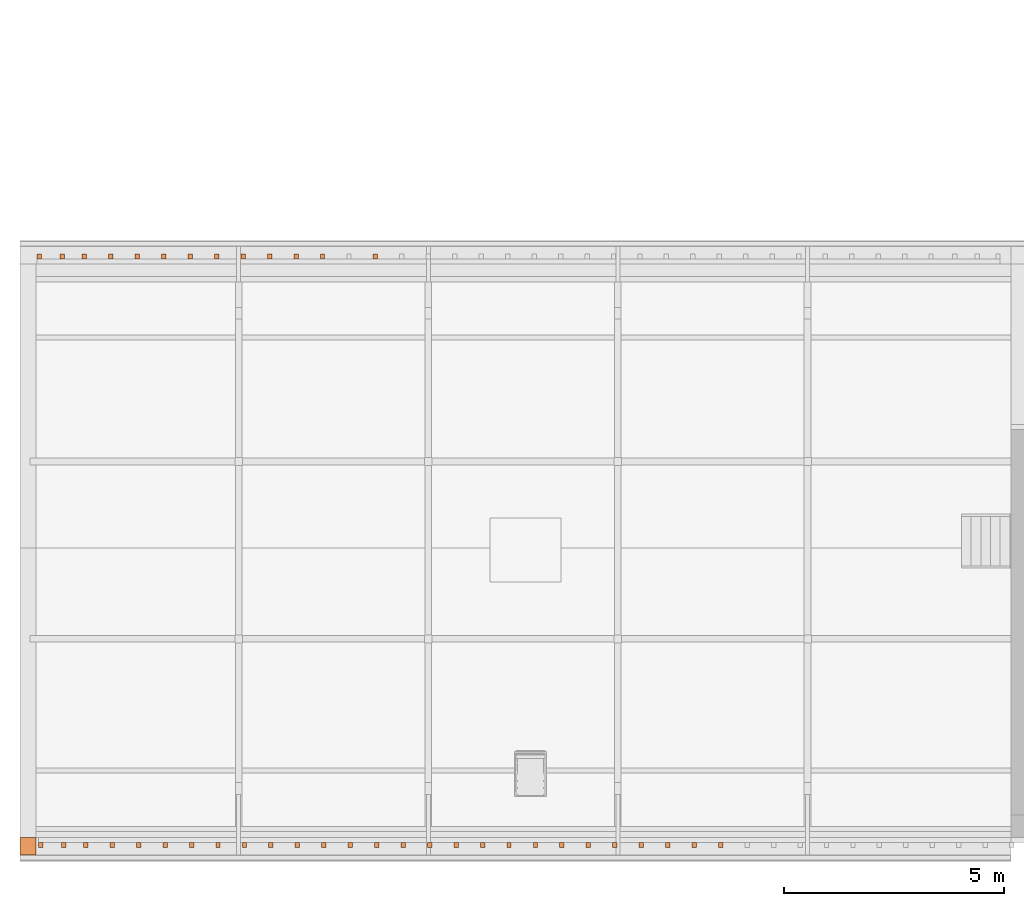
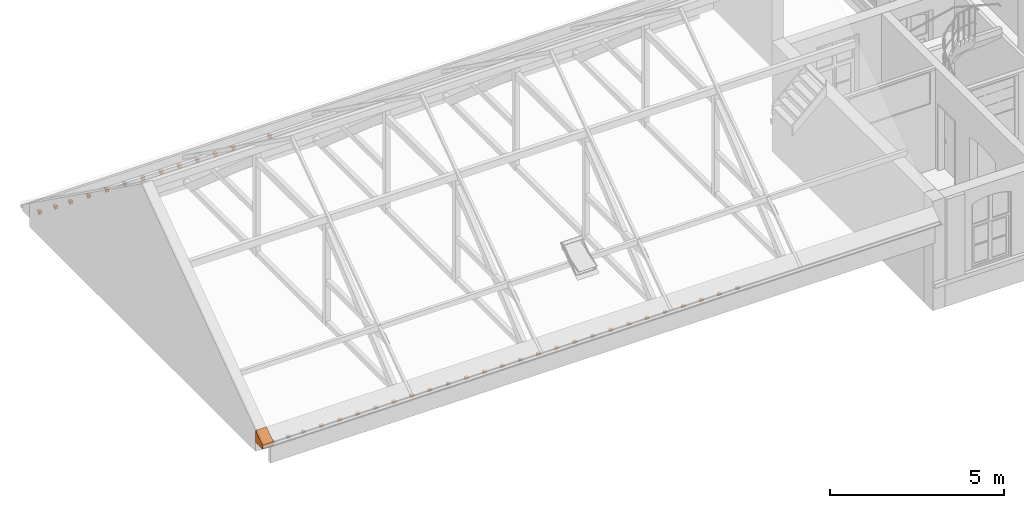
"""IFC4 building model written with IfcOpenShell, lengths in metres."""

from ifc_helpers import new_model, entity, si_unit, converted_unit, derived_unit, frame, origin, place, context, subcontext, project, spatial, faceted_brep, element, save


model = new_model("IFC4")

# Units and contexts
model_context = context("Model", 3, precision=1e-05, world=origin())
body_context = subcontext(model_context, "Body", "Model", "MODEL_VIEW")
ifc_project = project(units=[si_unit("LENGTHUNIT", "METRE"), si_unit("AREAUNIT", "SQUARE_METRE"), si_unit("VOLUMEUNIT", "CUBIC_METRE"), si_unit("MASSUNIT", "GRAM", prefix="KILO"), converted_unit("PLANEANGLEUNIT", "DEGREE", entity("IfcPlaneAngleMeasure", 0.0174532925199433), si_unit("PLANEANGLEUNIT", "RADIAN"), dimensions=[0, 0, 0, 0, 0, 0, 0]), derived_unit("THERMALTRANSMITTANCEUNIT", [(si_unit("POWERUNIT", "WATT"), 1), (si_unit("THERMODYNAMICTEMPERATUREUNIT", "KELVIN"), -1), (si_unit("LENGTHUNIT", "METRE"), -2)]), derived_unit("VOLUMETRICFLOWRATEUNIT", [(si_unit("LENGTHUNIT", "METRE"), 3), (converted_unit("TIMEUNIT", "hour", entity("IfcTimeMeasure", 3600.0), si_unit("TIMEUNIT", "SECOND"), dimensions=[0, 0, 1, 0, 0, 0, 0]), -1), (si_unit("LENGTHUNIT", "METRE"), -1)])], contexts=[model_context])

# Building, storeys
building_placement = place(None, origin())
building = spatial("IfcBuilding", under=ifc_project, at=building_placement, Name="Bestandsgebäude A - Sporthalle / Wohnhaus (TB 100-499)   ANPASSEN !!!", CompositionType="ELEMENT")
storey_1_placement = place(building_placement, frame((0.0, 0.0, 3.87)))
storey_1 = spatial("IfcBuildingStorey", under=building, at=storey_1_placement, Name="Geb. A 1. Obergeschoss (TB 250-299)", CompositionType="ELEMENT", Elevation=3.87)
storey_2_placement = place(storey_1_placement, frame((0.0, 0.0, 3.87)))
storey_2 = spatial("IfcBuildingStorey", under=storey_1, at=storey_2_placement, Name="Architektur (TB 250-259)", CompositionType="PARTIAL")

# Proxies
for number, where in (
    (1, (-15.53, -0.230000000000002, -1.12676065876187)),
    (2, (-16.13, -0.230000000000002, -1.12676065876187)),
    (3, (-16.73, -0.230000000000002, -1.12676065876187)),
    (4, (-17.33, -0.230000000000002, -1.12676065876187)),
    (5, (-17.93, -0.230000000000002, -1.12676065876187)),
    (6, (-18.53, -0.230000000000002, -1.12676065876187)),
    (7, (-19.13, -0.230000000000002, -1.12676065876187)),
    (8, (-19.73, -0.230000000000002, -1.12676065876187)),
    (9, (-20.33, -0.230000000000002, -1.12676065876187)),
    (10, (-20.93, -0.230000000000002, -1.12676065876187)),
    (11, (-21.53, -0.230000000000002, -1.12676065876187)),
    (12, (-22.13, -0.230000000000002, -1.12676065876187)),
    (13, (-22.73, -0.230000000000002, -1.12676065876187)),
    (14, (-23.33, -0.230000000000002, -1.12676065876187)),
    (15, (-23.93, -0.230000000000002, -1.12676065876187)),
    (16, (-24.53, -0.230000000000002, -1.12676065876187)),
    (17, (-25.13, -0.230000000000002, -1.12676065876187)),
    (18, (-25.73, -0.230000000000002, -1.12676065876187)),
):
    element("IfcBuildingElementProxy", number, at=place(storey_2_placement, frame(where)), inside=storey_2, context=body_context, shape_type="Brep", body=[
        faceted_brep([(0.1, 0.11, 0.10676065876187), (0.0, 0.11, 0.10676065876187), (0.0, 0.109999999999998, 0.0), (0.1, 0.109999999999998, 0.0), (0.0, 0.0878057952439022, 0.0), (0.1, 0.0878057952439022, 0.0), (0.0, 0.079673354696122, 0.00115963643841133), (0.1, 0.079673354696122, 0.00115963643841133), (0.0, 0.0675008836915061, 0.00476296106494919), (0.1, 0.0675008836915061, 0.00476296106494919), (0.0, 0.0583377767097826, 0.00852666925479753), (0.1, 0.0583377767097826, 0.00852666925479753), (0.0, 0.0511802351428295, 0.0140969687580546), (0.1, 0.0511802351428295, 0.0140969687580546), (0.0, 0.0408945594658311, 0.0295254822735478), (0.1, 0.0408945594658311, 0.0295254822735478), (0.0, 0.04, 0.0333518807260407), (0.1, 0.04, 0.0333518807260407), (0.0, 0.04, 0.0567606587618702), (0.1, 0.04, 0.0567606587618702), (0.0, 0.0, 0.0567606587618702), (0.1, 0.0, 0.0567606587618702), (0.0, 0.0, 0.10676065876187), (0.1, 0.0, 0.10676065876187)], [[[0, 1, 2, 3]], [[3, 2, 4, 5]], [[5, 4, 6, 7]], [[7, 6, 8, 9]], [[9, 8, 10, 11]], [[11, 10, 12, 13]], [[13, 12, 14, 15]], [[15, 14, 16, 17]], [[17, 16, 18, 19]], [[19, 18, 20, 21]], [[21, 20, 22, 23]], [[23, 22, 1, 0]], [[0, 3, 5, 7, 9, 11, 13, 15, 17, 19, 21, 23]], [[1, 22, 20, 18, 16, 14, 12, 10, 8, 6, 4, 2]]], orient=[[False], [False], [False], [False], [False], [False], [False], [False], [False], [False], [False], [False], [False], [False]]),
    ])
for number, where in (
    (19, (-26.33, -0.230000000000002, -1.12676065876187)),
    (20, (-26.93, -0.230000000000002, -1.12676065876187)),
    (21, (-27.53, -0.230000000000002, -1.12676065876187)),
    (22, (-28.13, -0.230000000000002, -1.12676065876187)),
    (23, (-28.73, -0.230000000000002, -1.12676065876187)),
):
    element("IfcBuildingElementProxy", number, at=place(storey_2_placement, frame(where)), inside=storey_2, context=body_context, shape_type="Brep", body=[
        faceted_brep([(0.1, 0.11, 0.10676065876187), (0.0, 0.11, 0.10676065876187), (0.0, 0.109999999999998, 0.0), (0.1, 0.109999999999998, 0.0), (0.0, 0.0878057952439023, 0.0), (0.1, 0.0878057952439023, 0.0), (0.0, 0.079673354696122, 0.00115963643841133), (0.1, 0.079673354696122, 0.00115963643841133), (0.0, 0.0675008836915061, 0.00476296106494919), (0.1, 0.0675008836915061, 0.00476296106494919), (0.0, 0.0583377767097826, 0.00852666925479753), (0.1, 0.0583377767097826, 0.00852666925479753), (0.0, 0.0511802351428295, 0.0140969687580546), (0.1, 0.0511802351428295, 0.0140969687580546), (0.0, 0.0408945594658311, 0.0295254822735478), (0.1, 0.0408945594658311, 0.0295254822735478), (0.0, 0.04, 0.0333518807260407), (0.1, 0.04, 0.0333518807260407), (0.0, 0.04, 0.0567606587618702), (0.1, 0.04, 0.0567606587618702), (0.0, 0.0, 0.0567606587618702), (0.1, 0.0, 0.0567606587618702), (0.0, 0.0, 0.10676065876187), (0.1, 0.0, 0.10676065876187)], [[[0, 1, 2, 3]], [[3, 2, 4, 5]], [[5, 4, 6, 7]], [[7, 6, 8, 9]], [[9, 8, 10, 11]], [[11, 10, 12, 13]], [[13, 12, 14, 15]], [[15, 14, 16, 17]], [[17, 16, 18, 19]], [[19, 18, 20, 21]], [[21, 20, 22, 23]], [[23, 22, 1, 0]], [[0, 3, 5, 7, 9, 11, 13, 15, 17, 19, 21, 23]], [[1, 22, 20, 18, 16, 14, 12, 10, 8, 6, 4, 2]]], orient=[[False], [False], [False], [False], [False], [False], [False], [False], [False], [False], [False], [False], [False], [False]]),
    ])
for number, where in (
    (24, (-29.33, -0.230000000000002, -1.12676065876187)),
    (25, (-29.93, -0.230000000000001, -1.12676065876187)),
    (26, (-30.95, -0.229999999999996, -1.12676065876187)),
    (27, (-30.43, -0.230000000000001, -1.12676065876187)),
):
    element("IfcBuildingElementProxy", number, at=place(storey_2_placement, frame(where)), inside=storey_2, context=body_context, shape_type="Brep", body=[
        faceted_brep([(0.1, 0.11, 0.10676065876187), (0.0, 0.11, 0.10676065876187), (0.0, 0.109999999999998, 0.0), (0.1, 0.109999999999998, 0.0), (0.0, 0.0878057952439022, 0.0), (0.1, 0.0878057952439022, 0.0), (0.0, 0.079673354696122, 0.00115963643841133), (0.1, 0.079673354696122, 0.00115963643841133), (0.0, 0.0675008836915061, 0.00476296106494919), (0.1, 0.0675008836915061, 0.00476296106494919), (0.0, 0.0583377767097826, 0.00852666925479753), (0.1, 0.0583377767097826, 0.00852666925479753), (0.0, 0.0511802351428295, 0.0140969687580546), (0.1, 0.0511802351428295, 0.0140969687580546), (0.0, 0.0408945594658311, 0.0295254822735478), (0.1, 0.0408945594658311, 0.0295254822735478), (0.0, 0.04, 0.0333518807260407), (0.1, 0.04, 0.0333518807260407), (0.0, 0.04, 0.0567606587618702), (0.1, 0.04, 0.0567606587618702), (0.0, 0.0, 0.0567606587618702), (0.1, 0.0, 0.0567606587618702), (0.0, 0.0, 0.10676065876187), (0.1, 0.0, 0.10676065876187)], [[[0, 1, 2, 3]], [[3, 2, 4, 5]], [[5, 4, 6, 7]], [[7, 6, 8, 9]], [[9, 8, 10, 11]], [[11, 10, 12, 13]], [[13, 12, 14, 15]], [[15, 14, 16, 17]], [[17, 16, 18, 19]], [[19, 18, 20, 21]], [[21, 20, 22, 23]], [[23, 22, 1, 0]], [[0, 3, 5, 7, 9, 11, 13, 15, 17, 19, 21, 23]], [[1, 22, 20, 18, 16, 14, 12, 10, 8, 6, 4, 2]]], orient=[[False], [False], [False], [False], [False], [False], [False], [False], [False], [False], [False], [False], [False], [False]]),
    ])
proxy_1_placement = place(storey_2_placement, frame((-23.3600000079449, 13.1200005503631, -1.12676065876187)))
element("IfcBuildingElementProxy", 28, at=proxy_1_placement, inside=storey_2, context=body_context, shape_type="Brep", body=[
    faceted_brep([(0.100000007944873, 0.0, 0.10676065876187), (0.100000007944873, 0.0, 0.0), (0.0, 0.0, 0.0), (0.0, 0.0, 0.10676065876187), (0.10000000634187, 0.0221942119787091, 0.0), (0.0, 0.0221942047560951, 0.0), (0.100000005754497, 0.0303266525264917, 0.00115963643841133), (0.0, 0.0303266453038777, 0.00115963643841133), (0.100000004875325, 0.0424991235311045, 0.00476296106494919), (0.0, 0.0424991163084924, 0.00476296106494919), (0.100000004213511, 0.0516622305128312, 0.00852666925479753), (0.0, 0.0516622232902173, 0.00852666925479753), (0.100000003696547, 0.0588197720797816, 0.0140969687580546), (0.0, 0.0588197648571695, 0.0140969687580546), (0.100000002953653, 0.0691054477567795, 0.0295254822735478), (0.0, 0.0691054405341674, 0.0295254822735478), (0.100000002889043, 0.0700000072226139, 0.0333518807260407), (0.0, 0.07, 0.0333518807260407), (0.100000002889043, 0.0700000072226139, 0.0567606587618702), (0.0, 0.07, 0.0567606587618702), (0.0999999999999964, 0.110000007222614, 0.0567606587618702), (0.0, 0.11, 0.0567606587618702), (0.0999999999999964, 0.110000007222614, 0.10676065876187), (0.0, 0.11, 0.10676065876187)], [[[0, 1, 2, 3]], [[1, 4, 5, 2]], [[4, 6, 7, 5]], [[6, 8, 9, 7]], [[8, 10, 11, 9]], [[10, 12, 13, 11]], [[12, 14, 15, 13]], [[14, 16, 17, 15]], [[16, 18, 19, 17]], [[18, 20, 21, 19]], [[20, 22, 23, 21]], [[22, 0, 3, 23]], [[0, 22, 20, 18, 16, 14, 12, 10, 8, 6, 4, 1]], [[3, 2, 5, 7, 9, 11, 13, 15, 17, 19, 21, 23]]], orient=[[False], [False], [False], [False], [False], [False], [False], [False], [False], [False], [False], [False], [False], [False]]),
])
proxy_2_placement = place(storey_2_placement, frame((-24.5600000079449, 13.1200004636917, -1.12676065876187)))
element("IfcBuildingElementProxy", 29, at=proxy_2_placement, inside=storey_2, context=body_context, shape_type="Brep", body=[
    faceted_brep([(0.10000000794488, 0.0, 0.10676065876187), (0.10000000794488, 0.0, 0.0), (0.0, 0.0, 0.0), (0.0, 0.0, 0.10676065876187), (0.100000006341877, 0.0221942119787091, 0.0), (0.0, 0.0221942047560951, 0.0), (0.100000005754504, 0.0303266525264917, 0.00115963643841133), (0.0, 0.0303266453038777, 0.00115963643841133), (0.100000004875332, 0.0424991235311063, 0.00476296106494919), (0.0, 0.0424991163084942, 0.00476296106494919), (0.100000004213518, 0.0516622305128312, 0.00852666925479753), (0.0, 0.0516622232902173, 0.00852666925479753), (0.100000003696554, 0.0588197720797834, 0.0140969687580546), (0.0, 0.0588197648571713, 0.0140969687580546), (0.10000000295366, 0.0691054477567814, 0.0295254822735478), (0.0, 0.0691054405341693, 0.0295254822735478), (0.10000000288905, 0.0700000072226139, 0.0333518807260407), (0.0, 0.07, 0.0333518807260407), (0.10000000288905, 0.0700000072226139, 0.0567606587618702), (0.0, 0.07, 0.0567606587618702), (0.100000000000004, 0.110000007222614, 0.0567606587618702), (0.0, 0.11, 0.0567606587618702), (0.100000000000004, 0.110000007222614, 0.10676065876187), (0.0, 0.11, 0.10676065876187)], [[[0, 1, 2, 3]], [[1, 4, 5, 2]], [[4, 6, 7, 5]], [[6, 8, 9, 7]], [[8, 10, 11, 9]], [[10, 12, 13, 11]], [[12, 14, 15, 13]], [[14, 16, 17, 15]], [[16, 18, 19, 17]], [[18, 20, 21, 19]], [[20, 22, 23, 21]], [[22, 0, 3, 23]], [[0, 22, 20, 18, 16, 14, 12, 10, 8, 6, 4, 1]], [[3, 2, 5, 7, 9, 11, 13, 15, 17, 19, 21, 23]]], orient=[[False], [False], [False], [False], [False], [False], [False], [False], [False], [False], [False], [False], [False], [False]]),
])
proxy_3_placement = place(storey_2_placement, frame((-25.1600000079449, 13.1200004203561, -1.12676065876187)))
element("IfcBuildingElementProxy", 30, at=proxy_3_placement, inside=storey_2, context=body_context, shape_type="Brep", body=[
    faceted_brep([(0.100000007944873, 0.0, 0.10676065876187), (0.100000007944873, 0.0, 0.0), (0.0, 0.0, 0.0), (0.0, 0.0, 0.10676065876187), (0.10000000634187, 0.0221942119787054, 0.0), (0.0, 0.0221942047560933, 0.0), (0.100000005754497, 0.030326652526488, 0.00115963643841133), (0.0, 0.0303266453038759, 0.00115963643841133), (0.100000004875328, 0.0424991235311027, 0.00476296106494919), (0.0, 0.0424991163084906, 0.00476296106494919), (0.100000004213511, 0.0516622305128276, 0.00852666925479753), (0.0, 0.0516622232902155, 0.00852666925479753), (0.10000000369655, 0.0588197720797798, 0.0140969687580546), (0.0, 0.0588197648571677, 0.0140969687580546), (0.100000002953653, 0.0691054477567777, 0.0295254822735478), (0.0, 0.0691054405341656, 0.0295254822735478), (0.100000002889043, 0.0700000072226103, 0.0333518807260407), (0.0, 0.0699999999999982, 0.0333518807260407), (0.100000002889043, 0.0700000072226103, 0.0567606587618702), (0.0, 0.0699999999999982, 0.0567606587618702), (0.1, 0.11000000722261, 0.0567606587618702), (0.0, 0.109999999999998, 0.0567606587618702), (0.1, 0.11000000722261, 0.10676065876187), (0.0, 0.109999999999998, 0.10676065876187)], [[[0, 1, 2, 3]], [[1, 4, 5, 2]], [[4, 6, 7, 5]], [[6, 8, 9, 7]], [[8, 10, 11, 9]], [[10, 12, 13, 11]], [[12, 14, 15, 13]], [[14, 16, 17, 15]], [[16, 18, 19, 17]], [[18, 20, 21, 19]], [[20, 22, 23, 21]], [[22, 0, 3, 23]], [[0, 22, 20, 18, 16, 14, 12, 10, 8, 6, 4, 1]], [[3, 2, 5, 7, 9, 11, 13, 15, 17, 19, 21, 23]]], orient=[[False], [False], [False], [False], [False], [False], [False], [False], [False], [False], [False], [False], [False], [False]]),
])
proxy_4_placement = place(storey_2_placement, frame((-25.7600000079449, 13.1200003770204, -1.12676065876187)))
element("IfcBuildingElementProxy", 31, at=proxy_4_placement, inside=storey_2, context=body_context, shape_type="Brep", body=[
    faceted_brep([(0.100000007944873, 0.0, 0.10676065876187), (0.100000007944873, 0.0, 0.0), (0.0, 0.0, 0.0), (0.0, 0.0, 0.10676065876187), (0.100000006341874, 0.0221942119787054, 0.0), (0.0, 0.0221942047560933, 0.0), (0.100000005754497, 0.030326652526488, 0.00115963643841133), (0.0, 0.0303266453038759, 0.00115963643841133), (0.100000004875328, 0.0424991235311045, 0.00476296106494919), (0.0, 0.0424991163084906, 0.00476296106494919), (0.100000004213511, 0.0516622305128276, 0.00852666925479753), (0.0, 0.0516622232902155, 0.00852666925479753), (0.10000000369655, 0.0588197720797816, 0.0140969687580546), (0.0, 0.0588197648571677, 0.0140969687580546), (0.100000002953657, 0.0691054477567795, 0.0295254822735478), (0.0, 0.0691054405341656, 0.0295254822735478), (0.100000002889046, 0.0700000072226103, 0.0333518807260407), (0.0, 0.0699999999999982, 0.0333518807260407), (0.100000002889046, 0.0700000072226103, 0.0567606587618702), (0.0, 0.0699999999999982, 0.0567606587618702), (0.1, 0.11000000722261, 0.0567606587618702), (0.0, 0.109999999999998, 0.0567606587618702), (0.1, 0.11000000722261, 0.10676065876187), (0.0, 0.109999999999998, 0.10676065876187)], [[[0, 1, 2, 3]], [[1, 4, 5, 2]], [[4, 6, 7, 5]], [[6, 8, 9, 7]], [[8, 10, 11, 9]], [[10, 12, 13, 11]], [[12, 14, 15, 13]], [[14, 16, 17, 15]], [[16, 18, 19, 17]], [[18, 20, 21, 19]], [[20, 22, 23, 21]], [[22, 0, 3, 23]], [[0, 22, 20, 18, 16, 14, 12, 10, 8, 6, 4, 1]], [[3, 2, 5, 7, 9, 11, 13, 15, 17, 19, 21, 23]]], orient=[[False], [False], [False], [False], [False], [False], [False], [False], [False], [False], [False], [False], [False], [False]]),
])
proxy_5_placement = place(storey_2_placement, frame((-26.3600000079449, 13.1200003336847, -1.12676065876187)))
element("IfcBuildingElementProxy", 32, at=proxy_5_placement, inside=storey_2, context=body_context, shape_type="Brep", body=[
    faceted_brep([(0.100000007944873, 0.0, 0.10676065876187), (0.100000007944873, 0.0, 0.0), (0.0, 0.0, 0.0), (0.0, 0.0, 0.10676065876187), (0.10000000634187, 0.0221942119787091, 0.0), (0.0, 0.0221942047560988, 0.0), (0.100000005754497, 0.0303266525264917, 0.00115963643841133), (0.0, 0.0303266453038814, 0.00115963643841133), (0.100000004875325, 0.0424991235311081, 0.00476296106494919), (0.0, 0.0424991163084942, 0.00476296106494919), (0.100000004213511, 0.0516622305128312, 0.00852666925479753), (0.0, 0.0516622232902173, 0.00852666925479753), (0.10000000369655, 0.0588197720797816, 0.0140969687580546), (0.0, 0.0588197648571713, 0.0140969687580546), (0.100000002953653, 0.0691054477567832, 0.0295254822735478), (0.0, 0.0691054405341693, 0.0295254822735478), (0.100000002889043, 0.0700000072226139, 0.0333518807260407), (0.0, 0.07, 0.0333518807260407), (0.100000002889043, 0.0700000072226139, 0.0567606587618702), (0.0, 0.07, 0.0567606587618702), (0.1, 0.110000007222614, 0.0567606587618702), (0.0, 0.11, 0.0567606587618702), (0.1, 0.110000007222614, 0.10676065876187), (0.0, 0.11, 0.10676065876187)], [[[0, 1, 2, 3]], [[1, 4, 5, 2]], [[4, 6, 7, 5]], [[6, 8, 9, 7]], [[8, 10, 11, 9]], [[10, 12, 13, 11]], [[12, 14, 15, 13]], [[14, 16, 17, 15]], [[16, 18, 19, 17]], [[18, 20, 21, 19]], [[20, 22, 23, 21]], [[22, 0, 3, 23]], [[0, 22, 20, 18, 16, 14, 12, 10, 8, 6, 4, 1]], [[3, 2, 5, 7, 9, 11, 13, 15, 17, 19, 21, 23]]], orient=[[False], [False], [False], [False], [False], [False], [False], [False], [False], [False], [False], [False], [False], [False]]),
])
proxy_6_placement = place(storey_2_placement, frame((-26.9600000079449, 13.120000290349, -1.12676065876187)))
element("IfcBuildingElementProxy", 33, at=proxy_6_placement, inside=storey_2, context=body_context, shape_type="Brep", body=[
    faceted_brep([(0.100000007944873, 0.0, 0.10676065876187), (0.100000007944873, 0.0, 0.0), (0.0, 0.0, 0.0), (0.0, 0.0, 0.10676065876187), (0.100000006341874, 0.0221942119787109, 0.0), (0.0, 0.0221942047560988, 0.0), (0.100000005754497, 0.0303266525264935, 0.00115963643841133), (0.0, 0.0303266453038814, 0.00115963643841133), (0.100000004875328, 0.0424991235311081, 0.00476296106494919), (0.0, 0.0424991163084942, 0.00476296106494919), (0.100000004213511, 0.0516622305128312, 0.00852666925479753), (0.0, 0.0516622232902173, 0.00852666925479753), (0.10000000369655, 0.0588197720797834, 0.0140969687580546), (0.0, 0.0588197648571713, 0.0140969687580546), (0.100000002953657, 0.0691054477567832, 0.0295254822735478), (0.0, 0.0691054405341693, 0.0295254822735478), (0.100000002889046, 0.0700000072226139, 0.0333518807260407), (0.0, 0.07, 0.0333518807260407), (0.100000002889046, 0.0700000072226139, 0.0567606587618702), (0.0, 0.07, 0.0567606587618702), (0.1, 0.110000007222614, 0.0567606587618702), (0.0, 0.11, 0.0567606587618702), (0.1, 0.110000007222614, 0.10676065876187), (0.0, 0.11, 0.10676065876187)], [[[0, 1, 2, 3]], [[1, 4, 5, 2]], [[4, 6, 7, 5]], [[6, 8, 9, 7]], [[8, 10, 11, 9]], [[10, 12, 13, 11]], [[12, 14, 15, 13]], [[14, 16, 17, 15]], [[16, 18, 19, 17]], [[18, 20, 21, 19]], [[20, 22, 23, 21]], [[22, 0, 3, 23]], [[0, 22, 20, 18, 16, 14, 12, 10, 8, 6, 4, 1]], [[3, 2, 5, 7, 9, 11, 13, 15, 17, 19, 21, 23]]], orient=[[False], [False], [False], [False], [False], [False], [False], [False], [False], [False], [False], [False], [False], [False]]),
])
proxy_7_placement = place(storey_2_placement, frame((-27.5600000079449, 13.1200002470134, -1.12676065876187)))
element("IfcBuildingElementProxy", 34, at=proxy_7_placement, inside=storey_2, context=body_context, shape_type="Brep", body=[
    faceted_brep([(0.100000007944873, 0.0, 0.10676065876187), (0.100000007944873, 0.0, 0.0), (0.0, 0.0, 0.0), (0.0, 0.0, 0.10676065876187), (0.10000000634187, 0.0221942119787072, 0.0), (0.0, 0.0221942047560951, 0.0), (0.100000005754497, 0.0303266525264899, 0.00115963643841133), (0.0, 0.0303266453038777, 0.00115963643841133), (0.100000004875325, 0.0424991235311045, 0.00476296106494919), (0.0, 0.0424991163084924, 0.00476296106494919), (0.100000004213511, 0.0516622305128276, 0.00852666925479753), (0.0, 0.0516622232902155, 0.00852666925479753), (0.100000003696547, 0.0588197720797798, 0.0140969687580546), (0.0, 0.0588197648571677, 0.0140969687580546), (0.100000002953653, 0.0691054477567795, 0.0295254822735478), (0.0, 0.0691054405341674, 0.0295254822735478), (0.100000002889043, 0.0700000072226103, 0.0333518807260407), (0.0, 0.0699999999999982, 0.0333518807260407), (0.100000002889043, 0.0700000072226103, 0.0567606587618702), (0.0, 0.0699999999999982, 0.0567606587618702), (0.0999999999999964, 0.11000000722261, 0.0567606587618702), (0.0, 0.109999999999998, 0.0567606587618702), (0.0999999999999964, 0.11000000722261, 0.10676065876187), (0.0, 0.109999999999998, 0.10676065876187)], [[[0, 1, 2, 3]], [[1, 4, 5, 2]], [[4, 6, 7, 5]], [[6, 8, 9, 7]], [[8, 10, 11, 9]], [[10, 12, 13, 11]], [[12, 14, 15, 13]], [[14, 16, 17, 15]], [[16, 18, 19, 17]], [[18, 20, 21, 19]], [[20, 22, 23, 21]], [[22, 0, 3, 23]], [[0, 22, 20, 18, 16, 14, 12, 10, 8, 6, 4, 1]], [[3, 2, 5, 7, 9, 11, 13, 15, 17, 19, 21, 23]]], orient=[[False], [False], [False], [False], [False], [False], [False], [False], [False], [False], [False], [False], [False], [False]]),
])
proxy_8_placement = place(storey_2_placement, frame((-28.1600000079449, 13.1200002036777, -1.12676065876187)))
element("IfcBuildingElementProxy", 35, at=proxy_8_placement, inside=storey_2, context=body_context, shape_type="Brep", body=[
    faceted_brep([(0.100000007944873, 0.0, 0.10676065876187), (0.100000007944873, 0.0, 0.0), (0.0, 0.0, 0.0), (0.0, 0.0, 0.10676065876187), (0.100000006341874, 0.0221942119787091, 0.0), (0.0, 0.0221942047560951, 0.0), (0.100000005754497, 0.0303266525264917, 0.00115963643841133), (0.0, 0.0303266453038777, 0.00115963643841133), (0.100000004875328, 0.0424991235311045, 0.00476296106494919), (0.0, 0.0424991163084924, 0.00476296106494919), (0.100000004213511, 0.0516622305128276, 0.00852666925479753), (0.0, 0.0516622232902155, 0.00852666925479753), (0.10000000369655, 0.0588197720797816, 0.0140969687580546), (0.0, 0.0588197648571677, 0.0140969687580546), (0.100000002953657, 0.0691054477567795, 0.0295254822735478), (0.0, 0.0691054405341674, 0.0295254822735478), (0.100000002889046, 0.0700000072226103, 0.0333518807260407), (0.0, 0.0699999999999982, 0.0333518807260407), (0.100000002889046, 0.0700000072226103, 0.0567606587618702), (0.0, 0.0699999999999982, 0.0567606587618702), (0.1, 0.11000000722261, 0.0567606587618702), (0.0, 0.109999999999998, 0.0567606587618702), (0.1, 0.11000000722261, 0.10676065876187), (0.0, 0.109999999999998, 0.10676065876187)], [[[0, 1, 2, 3]], [[1, 4, 5, 2]], [[4, 6, 7, 5]], [[6, 8, 9, 7]], [[8, 10, 11, 9]], [[10, 12, 13, 11]], [[12, 14, 15, 13]], [[14, 16, 17, 15]], [[16, 18, 19, 17]], [[18, 20, 21, 19]], [[20, 22, 23, 21]], [[22, 0, 3, 23]], [[0, 22, 20, 18, 16, 14, 12, 10, 8, 6, 4, 1]], [[3, 2, 5, 7, 9, 11, 13, 15, 17, 19, 21, 23]]], orient=[[False], [False], [False], [False], [False], [False], [False], [False], [False], [False], [False], [False], [False], [False]]),
])
proxy_9_placement = place(storey_2_placement, frame((-28.7600000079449, 13.120000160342, -1.12676065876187)))
element("IfcBuildingElementProxy", 36, at=proxy_9_placement, inside=storey_2, context=body_context, shape_type="Brep", body=[
    faceted_brep([(0.100000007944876, 0.0, 0.10676065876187), (0.100000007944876, 0.0, 0.0), (0.0, 0.0, 0.0), (0.0, 0.0, 0.10676065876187), (0.100000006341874, 0.0221942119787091, 0.0), (0.0, 0.0221942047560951, 0.0), (0.1000000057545, 0.0303266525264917, 0.00115963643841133), (0.0, 0.0303266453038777, 0.00115963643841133), (0.100000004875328, 0.0424991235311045, 0.00476296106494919), (0.0, 0.0424991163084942, 0.00476296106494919), (0.100000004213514, 0.0516622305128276, 0.00852666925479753), (0.0, 0.0516622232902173, 0.00852666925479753), (0.10000000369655, 0.0588197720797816, 0.0140969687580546), (0.0, 0.0588197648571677, 0.0140969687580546), (0.100000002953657, 0.0691054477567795, 0.0295254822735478), (0.0, 0.0691054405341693, 0.0295254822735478), (0.100000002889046, 0.0700000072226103, 0.0333518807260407), (0.0, 0.07, 0.0333518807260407), (0.100000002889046, 0.0700000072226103, 0.0567606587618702), (0.0, 0.07, 0.0567606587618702), (0.1, 0.11000000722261, 0.0567606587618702), (0.0, 0.11, 0.0567606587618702), (0.1, 0.11000000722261, 0.10676065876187), (0.0, 0.11, 0.10676065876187)], [[[0, 1, 2, 3]], [[1, 4, 5, 2]], [[4, 6, 7, 5]], [[6, 8, 9, 7]], [[8, 10, 11, 9]], [[10, 12, 13, 11]], [[12, 14, 15, 13]], [[14, 16, 17, 15]], [[16, 18, 19, 17]], [[18, 20, 21, 19]], [[20, 22, 23, 21]], [[22, 0, 3, 23]], [[0, 22, 20, 18, 16, 14, 12, 10, 8, 6, 4, 1]], [[3, 2, 5, 7, 9, 11, 13, 15, 17, 19, 21, 23]]], orient=[[False], [False], [False], [False], [False], [False], [False], [False], [False], [False], [False], [False], [False], [False]]),
])
proxy_10_placement = place(storey_2_placement, frame((-29.3600000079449, 13.1200001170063, -1.12676065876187)))
element("IfcBuildingElementProxy", 37, at=proxy_10_placement, inside=storey_2, context=body_context, shape_type="Brep", body=[
    faceted_brep([(0.100000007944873, 0.0, 0.10676065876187), (0.100000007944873, 0.0, 0.0), (0.0, 0.0, 0.0), (0.0, 0.0, 0.10676065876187), (0.10000000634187, 0.0221942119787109, 0.0), (0.0, 0.022194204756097, 0.0), (0.100000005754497, 0.0303266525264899, 0.00115963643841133), (0.0, 0.0303266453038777, 0.00115963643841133), (0.100000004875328, 0.0424991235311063, 0.00476296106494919), (0.0, 0.0424991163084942, 0.00476296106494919), (0.100000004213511, 0.0516622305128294, 0.00852666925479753), (0.0, 0.0516622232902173, 0.00852666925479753), (0.10000000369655, 0.0588197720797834, 0.0140969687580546), (0.0, 0.0588197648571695, 0.0140969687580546), (0.100000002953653, 0.0691054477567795, 0.0295254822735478), (0.0, 0.0691054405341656, 0.0295254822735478), (0.100000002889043, 0.0700000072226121, 0.0333518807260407), (0.0, 0.07, 0.0333518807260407), (0.100000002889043, 0.0700000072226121, 0.0567606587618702), (0.0, 0.07, 0.0567606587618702), (0.1, 0.110000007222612, 0.0567606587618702), (0.0, 0.11, 0.0567606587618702), (0.1, 0.110000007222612, 0.10676065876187), (0.0, 0.11, 0.10676065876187)], [[[0, 1, 2, 3]], [[1, 4, 5, 2]], [[4, 6, 7, 5]], [[6, 8, 9, 7]], [[8, 10, 11, 9]], [[10, 12, 13, 11]], [[12, 14, 15, 13]], [[14, 16, 17, 15]], [[16, 18, 19, 17]], [[18, 20, 21, 19]], [[20, 22, 23, 21]], [[22, 0, 3, 23]], [[0, 22, 20, 18, 16, 14, 12, 10, 8, 6, 4, 1]], [[3, 2, 5, 7, 9, 11, 13, 15, 17, 19, 21, 23]]], orient=[[False], [False], [False], [False], [False], [False], [False], [False], [False], [False], [False], [False], [False], [False]]),
])
proxy_11_placement = place(storey_2_placement, frame((-29.9600000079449, 13.1200000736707, -1.12676065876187)))
element("IfcBuildingElementProxy", 38, at=proxy_11_placement, inside=storey_2, context=body_context, shape_type="Brep", body=[
    faceted_brep([(0.100000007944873, 0.0, 0.10676065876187), (0.100000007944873, 0.0, 0.0), (0.0, 0.0, 0.0), (0.0, 0.0, 0.10676065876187), (0.100000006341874, 0.0221942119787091, 0.0), (0.0, 0.022194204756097, 0.0), (0.100000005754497, 0.0303266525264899, 0.00115963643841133), (0.0, 0.0303266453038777, 0.00115963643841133), (0.100000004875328, 0.0424991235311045, 0.00476296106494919), (0.0, 0.0424991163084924, 0.00476296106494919), (0.100000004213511, 0.0516622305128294, 0.00852666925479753), (0.0, 0.0516622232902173, 0.00852666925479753), (0.10000000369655, 0.0588197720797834, 0.0140969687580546), (0.0, 0.0588197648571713, 0.0140969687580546), (0.100000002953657, 0.0691054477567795, 0.0295254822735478), (0.0, 0.0691054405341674, 0.0295254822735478), (0.100000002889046, 0.0700000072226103, 0.0333518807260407), (0.0, 0.0699999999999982, 0.0333518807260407), (0.100000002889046, 0.0700000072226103, 0.0567606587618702), (0.0, 0.0699999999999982, 0.0567606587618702), (0.1, 0.11000000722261, 0.0567606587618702), (0.0, 0.109999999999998, 0.0567606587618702), (0.1, 0.11000000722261, 0.10676065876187), (0.0, 0.109999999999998, 0.10676065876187)], [[[0, 1, 2, 3]], [[1, 4, 5, 2]], [[4, 6, 7, 5]], [[6, 8, 9, 7]], [[8, 10, 11, 9]], [[10, 12, 13, 11]], [[12, 14, 15, 13]], [[14, 16, 17, 15]], [[16, 18, 19, 17]], [[18, 20, 21, 19]], [[20, 22, 23, 21]], [[22, 0, 3, 23]], [[0, 22, 20, 18, 16, 14, 12, 10, 8, 6, 4, 1]], [[3, 2, 5, 7, 9, 11, 13, 15, 17, 19, 21, 23]]], orient=[[False], [False], [False], [False], [False], [False], [False], [False], [False], [False], [False], [False], [False], [False]]),
])
proxy_12_placement = place(storey_2_placement, frame((-30.9800000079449, 13.12, -1.12676065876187)))
element("IfcBuildingElementProxy", 39, at=proxy_12_placement, inside=storey_2, context=body_context, shape_type="Brep", body=[
    faceted_brep([(0.100000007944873, 0.0, 0.10676065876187), (0.100000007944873, 0.0, 0.0), (0.0, 0.0, 0.0), (0.0, 0.0, 0.10676065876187), (0.100000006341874, 0.0221942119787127, 0.0), (0.0, 0.0221942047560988, 0.0), (0.100000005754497, 0.0303266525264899, 0.00115963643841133), (0.0, 0.0303266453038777, 0.00115963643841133), (0.100000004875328, 0.0424991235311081, 0.00476296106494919), (0.0, 0.042499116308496, 0.00476296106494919), (0.100000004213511, 0.0516622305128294, 0.00852666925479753), (0.0, 0.0516622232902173, 0.00852666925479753), (0.10000000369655, 0.0588197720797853, 0.0140969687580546), (0.0, 0.0588197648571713, 0.0140969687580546), (0.100000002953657, 0.0691054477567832, 0.0295254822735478), (0.0, 0.0691054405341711, 0.0295254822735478), (0.100000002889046, 0.0700000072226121, 0.0333518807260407), (0.0, 0.07, 0.0333518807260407), (0.100000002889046, 0.0700000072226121, 0.0567606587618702), (0.0, 0.07, 0.0567606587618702), (0.1, 0.110000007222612, 0.0567606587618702), (0.0, 0.11, 0.0567606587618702), (0.1, 0.110000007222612, 0.10676065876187), (0.0, 0.11, 0.10676065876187)], [[[0, 1, 2, 3]], [[1, 4, 5, 2]], [[4, 6, 7, 5]], [[6, 8, 9, 7]], [[8, 10, 11, 9]], [[10, 12, 13, 11]], [[12, 14, 15, 13]], [[14, 16, 17, 15]], [[16, 18, 19, 17]], [[18, 20, 21, 19]], [[20, 22, 23, 21]], [[22, 0, 3, 23]], [[0, 22, 20, 18, 16, 14, 12, 10, 8, 6, 4, 1]], [[3, 2, 5, 7, 9, 11, 13, 15, 17, 19, 21, 23]]], orient=[[False], [False], [False], [False], [False], [False], [False], [False], [False], [False], [False], [False], [False], [False]]),
])
proxy_13_placement = place(storey_2_placement, frame((-30.4600000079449, 13.1200000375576, -1.12676065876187)))
element("IfcBuildingElementProxy", 40, at=proxy_13_placement, inside=storey_2, context=body_context, shape_type="Brep", body=[
    faceted_brep([(0.100000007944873, 0.0, 0.10676065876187), (0.100000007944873, 0.0, 0.0), (0.0, 0.0, 0.0), (0.0, 0.0, 0.10676065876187), (0.10000000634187, 0.0221942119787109, 0.0), (0.0, 0.022194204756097, 0.0), (0.100000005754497, 0.030326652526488, 0.00115963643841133), (0.0, 0.0303266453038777, 0.00115963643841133), (0.100000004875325, 0.0424991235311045, 0.00476296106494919), (0.0, 0.0424991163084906, 0.00476296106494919), (0.100000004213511, 0.0516622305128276, 0.00852666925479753), (0.0, 0.0516622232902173, 0.00852666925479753), (0.10000000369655, 0.0588197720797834, 0.0140969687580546), (0.0, 0.0588197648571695, 0.0140969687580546), (0.100000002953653, 0.0691054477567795, 0.0295254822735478), (0.0, 0.0691054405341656, 0.0295254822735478), (0.100000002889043, 0.0700000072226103, 0.0333518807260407), (0.0, 0.07, 0.0333518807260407), (0.100000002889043, 0.0700000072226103, 0.0567606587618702), (0.0, 0.07, 0.0567606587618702), (0.1, 0.11000000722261, 0.0567606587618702), (0.0, 0.11, 0.0567606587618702), (0.1, 0.11000000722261, 0.10676065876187), (0.0, 0.11, 0.10676065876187)], [[[0, 1, 2, 3]], [[1, 4, 5, 2]], [[4, 6, 7, 5]], [[6, 8, 9, 7]], [[8, 10, 11, 9]], [[10, 12, 13, 11]], [[12, 14, 15, 13]], [[14, 16, 17, 15]], [[16, 18, 19, 17]], [[18, 20, 21, 19]], [[20, 22, 23, 21]], [[22, 0, 3, 23]], [[0, 22, 20, 18, 16, 14, 12, 10, 8, 6, 4, 1]], [[3, 2, 5, 7, 9, 11, 13, 15, 17, 19, 21, 23]]], orient=[[False], [False], [False], [False], [False], [False], [False], [False], [False], [False], [False], [False], [False], [False]]),
])
proxy_14_placement = place(storey_2_placement, frame((-31.37, -0.399606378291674, -1.02)))
element("IfcBuildingElementProxy", 41, at=proxy_14_placement, inside=storey_2, context=body_context, shape_type="Brep", body=[
    faceted_brep([(0.0, 0.399606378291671, 0.424615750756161), (0.0, 0.0, 0.139999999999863), (0.0, 0.0, 0.0), (0.0, 0.399606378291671, 0.0), (0.360000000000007, 0.0, 0.139999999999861), (0.360000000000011, 0.0, 0.0), (0.359999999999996, 0.39960637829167, 0.0), (0.360000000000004, 0.39960637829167, 0.424615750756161)], [[[0, 1, 2, 3]], [[2, 1, 4, 5]], [[3, 2, 5, 6]], [[4, 1, 0, 7]], [[0, 3, 6, 7]], [[5, 4, 7, 6]]], orient=[[False], [False], [False], [False], [False], [False]]),
])

save(model, "model.ifc")
